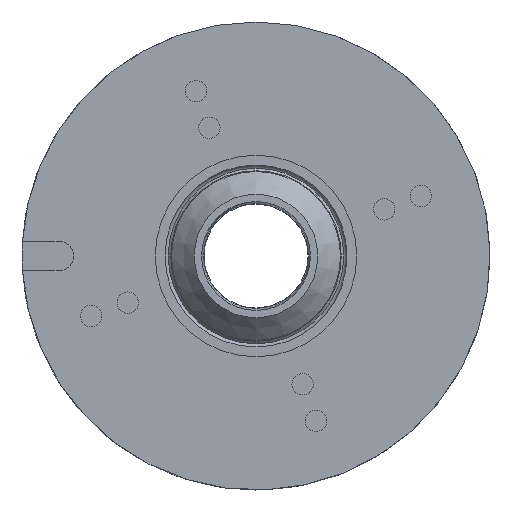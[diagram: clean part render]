
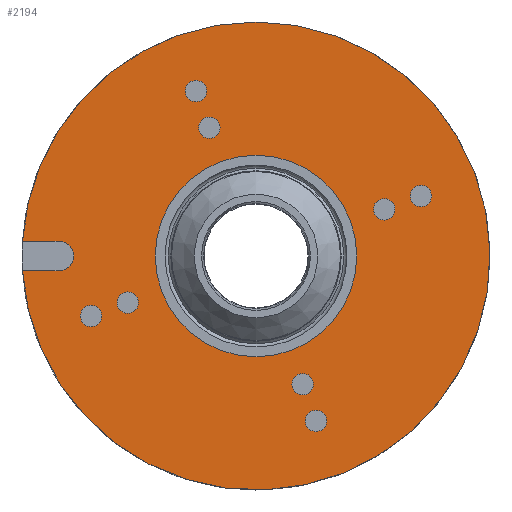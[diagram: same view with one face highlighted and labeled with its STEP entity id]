
A CAD part, left-side view. The second image highlights one B-rep face of the part: STEP entity #2194.
In plain terms, the highlighted planar face has unit normal (-1, 0, 0).
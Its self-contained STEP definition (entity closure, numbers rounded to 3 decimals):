
#23 = DIRECTION ( 'NONE',  ( 0., 1., 0. ) ) ;
#34 = EDGE_LOOP ( 'NONE', ( #2167 ) ) ;
#40 = EDGE_LOOP ( 'NONE', ( #2640, #2306, #3940, #1767 ) ) ;
#47 = VERTEX_POINT ( 'NONE', #192 ) ;
#60 = DIRECTION ( 'NONE',  ( -1., 0., 0. ) ) ;
#78 = AXIS2_PLACEMENT_3D ( 'NONE', #2320, #2020, #4214 ) ;
#137 = FACE_BOUND ( 'NONE', #4281, .T. ) ;
#192 = CARTESIAN_POINT ( 'NONE',  ( 0., 35.93, -2.25 ) ) ;
#245 = CIRCLE ( 'NONE', #274, 1.65 ) ;
#274 = AXIS2_PLACEMENT_3D ( 'NONE', #4664, #708, #4048 ) ;
#298 = EDGE_CURVE ( 'NONE', #4005, #4005, #434, .T. ) ;
#312 = VERTEX_POINT ( 'NONE', #2201 ) ;
#332 = DIRECTION ( 'NONE',  ( -1., 0., 0. ) ) ;
#340 = CARTESIAN_POINT ( 'NONE',  ( 0., 9.235, 25.372 ) ) ;
#407 = CIRCLE ( 'NONE', #3243, 15.5 ) ;
#421 = CARTESIAN_POINT ( 'NONE',  ( 0., -9.235, -25.372 ) ) ;
#429 = CIRCLE ( 'NONE', #3032, 36. ) ;
#434 = CIRCLE ( 'NONE', #2025, 1.65 ) ;
#453 = ORIENTED_EDGE ( 'NONE', *, *, #2706, .F. ) ;
#463 = CARTESIAN_POINT ( 'NONE',  ( 0., 30.3, 0. ) ) ;
#546 = CIRCLE ( 'NONE', #2957, 1.65 ) ;
#640 = VERTEX_POINT ( 'NONE', #4416 ) ;
#657 = FACE_BOUND ( 'NONE', #2409, .T. ) ;
#702 = VERTEX_POINT ( 'NONE', #4032 ) ;
#708 = DIRECTION ( 'NONE',  ( -1., 0., 0. ) ) ;
#726 = VECTOR ( 'NONE', #23, 1000. ) ;
#747 = DIRECTION ( 'NONE',  ( 0., 0., 1. ) ) ;
#759 = AXIS2_PLACEMENT_3D ( 'NONE', #340, #4764, #2567 ) ;
#801 = AXIS2_PLACEMENT_3D ( 'NONE', #463, #3419, #1886 ) ;
#802 = CIRCLE ( 'NONE', #3988, 1.65 ) ;
#808 = DIRECTION ( 'NONE',  ( 0., 0., 1. ) ) ;
#900 = CIRCLE ( 'NONE', #801, 2.25 ) ;
#905 = EDGE_CURVE ( 'NONE', #2892, #2892, #802, .T. ) ;
#907 = ORIENTED_EDGE ( 'NONE', *, *, #4507, .F. ) ;
#943 = EDGE_CURVE ( 'NONE', #702, #702, #3054, .T. ) ;
#1010 = DIRECTION ( 'NONE',  ( -1., 0., 0. ) ) ;
#1012 = FACE_BOUND ( 'NONE', #2936, .T. ) ;
#1028 = ORIENTED_EDGE ( 'NONE', *, *, #298, .F. ) ;
#1079 = DIRECTION ( 'NONE',  ( 0., 0., -1. ) ) ;
#1167 = VERTEX_POINT ( 'NONE', #4707 ) ;
#1190 = DIRECTION ( 'NONE',  ( 0., 0., 1. ) ) ;
#1323 = ORIENTED_EDGE ( 'NONE', *, *, #1903, .F. ) ;
#1341 = VERTEX_POINT ( 'NONE', #3281 ) ;
#1455 = CARTESIAN_POINT ( 'NONE',  ( 0., -25.372, 10.885 ) ) ;
#1479 = FACE_BOUND ( 'NONE', #2241, .T. ) ;
#1495 = EDGE_LOOP ( 'NONE', ( #1323 ) ) ;
#1558 = CARTESIAN_POINT ( 'NONE',  ( 0., -7.182, -19.734 ) ) ;
#1601 = EDGE_CURVE ( 'NONE', #2877, #47, #4638, .T. ) ;
#1603 = CIRCLE ( 'NONE', #78, 1.65 ) ;
#1618 = ORIENTED_EDGE ( 'NONE', *, *, #3925, .F. ) ;
#1635 = VERTEX_POINT ( 'NONE', #3650 ) ;
#1658 = DIRECTION ( 'NONE',  ( 0., 1., 0. ) ) ;
#1664 = EDGE_LOOP ( 'NONE', ( #453 ) ) ;
#1689 = EDGE_CURVE ( 'NONE', #1635, #1635, #4545, .T. ) ;
#1717 = EDGE_LOOP ( 'NONE', ( #3173 ) ) ;
#1741 = CARTESIAN_POINT ( 'NONE',  ( 0., 0., 0. ) ) ;
#1767 = ORIENTED_EDGE ( 'NONE', *, *, #1601, .T. ) ;
#1818 = DIRECTION ( 'NONE',  ( 0., 0., 1. ) ) ;
#1881 = FACE_BOUND ( 'NONE', #1495, .T. ) ;
#1886 = DIRECTION ( 'NONE',  ( 0., 0., 1. ) ) ;
#1901 = VERTEX_POINT ( 'NONE', #1912 ) ;
#1903 = EDGE_CURVE ( 'NONE', #640, #640, #1603, .T. ) ;
#1912 = CARTESIAN_POINT ( 'NONE',  ( 0., 35.93, 2.25 ) ) ;
#1941 = CARTESIAN_POINT ( 'NONE',  ( 0., 30.3, -2.25 ) ) ;
#2019 = ORIENTED_EDGE ( 'NONE', *, *, #943, .F. ) ;
#2020 = DIRECTION ( 'NONE',  ( -1., 0., 0. ) ) ;
#2025 = AXIS2_PLACEMENT_3D ( 'NONE', #2983, #2605, #1818 ) ;
#2111 = FACE_BOUND ( 'NONE', #4551, .T. ) ;
#2142 = CARTESIAN_POINT ( 'NONE',  ( 0., 7.182, 21.384 ) ) ;
#2167 = ORIENTED_EDGE ( 'NONE', *, *, #2357, .F. ) ;
#2194 = ADVANCED_FACE ( 'NONE', ( #1479, #2388, #1012, #657, #2914, #3503, #1881, #2111, #2337, #137 ), #3703, .F. ) ;
#2201 = CARTESIAN_POINT ( 'NONE',  ( 0., 30.3, 2.25 ) ) ;
#2203 = CARTESIAN_POINT ( 'NONE',  ( 0., 36., 0. ) ) ;
#2205 = CARTESIAN_POINT ( 'NONE',  ( 0., -9.235, -23.722 ) ) ;
#2241 = EDGE_LOOP ( 'NONE', ( #2019 ) ) ;
#2306 = ORIENTED_EDGE ( 'NONE', *, *, #4415, .F. ) ;
#2320 = CARTESIAN_POINT ( 'NONE',  ( 0., 19.734, -7.182 ) ) ;
#2337 = FACE_OUTER_BOUND ( 'NONE', #40, .T. ) ;
#2357 = EDGE_CURVE ( 'NONE', #3019, #3019, #245, .T. ) ;
#2388 = FACE_BOUND ( 'NONE', #34, .T. ) ;
#2409 = EDGE_LOOP ( 'NONE', ( #1618 ) ) ;
#2420 = VERTEX_POINT ( 'NONE', #2205 ) ;
#2476 = CARTESIAN_POINT ( 'NONE',  ( 0., 25.372, -9.235 ) ) ;
#2506 = EDGE_CURVE ( 'NONE', #47, #1901, #429, .T. ) ;
#2563 = CARTESIAN_POINT ( 'NONE',  ( 0., -19.734, 8.832 ) ) ;
#2567 = DIRECTION ( 'NONE',  ( 0., 0., 1. ) ) ;
#2594 = DIRECTION ( 'NONE',  ( 0., 0., 1. ) ) ;
#2605 = DIRECTION ( 'NONE',  ( -1., 0., 0. ) ) ;
#2640 = ORIENTED_EDGE ( 'NONE', *, *, #2506, .T. ) ;
#2666 = CARTESIAN_POINT ( 'NONE',  ( 0., 36., -2.25 ) ) ;
#2706 = EDGE_CURVE ( 'NONE', #1341, #1341, #546, .T. ) ;
#2850 = EDGE_CURVE ( 'NONE', #2877, #312, #900, .T. ) ;
#2877 = VERTEX_POINT ( 'NONE', #1941 ) ;
#2887 = AXIS2_PLACEMENT_3D ( 'NONE', #1558, #60, #2594 ) ;
#2892 = VERTEX_POINT ( 'NONE', #1455 ) ;
#2914 = FACE_BOUND ( 'NONE', #1717, .T. ) ;
#2936 = EDGE_LOOP ( 'NONE', ( #1028 ) ) ;
#2957 = AXIS2_PLACEMENT_3D ( 'NONE', #2476, #3435, #1190 ) ;
#2983 = CARTESIAN_POINT ( 'NONE',  ( 0., -19.734, 7.182 ) ) ;
#3019 = VERTEX_POINT ( 'NONE', #2142 ) ;
#3020 = DIRECTION ( 'NONE',  ( -1., 0., 0. ) ) ;
#3032 = AXIS2_PLACEMENT_3D ( 'NONE', #4335, #332, #3296 ) ;
#3054 = CIRCLE ( 'NONE', #759, 1.65 ) ;
#3146 = VECTOR ( 'NONE', #1658, 1000. ) ;
#3173 = ORIENTED_EDGE ( 'NONE', *, *, #1689, .F. ) ;
#3243 = AXIS2_PLACEMENT_3D ( 'NONE', #1741, #1010, #3979 ) ;
#3251 = LINE ( 'NONE', #3457, #3146 ) ;
#3281 = CARTESIAN_POINT ( 'NONE',  ( 0., 25.372, -7.585 ) ) ;
#3296 = DIRECTION ( 'NONE',  ( 0., 0., 1. ) ) ;
#3305 = CARTESIAN_POINT ( 'NONE',  ( 0., -25.372, 9.235 ) ) ;
#3382 = CIRCLE ( 'NONE', #4332, 1.65 ) ;
#3419 = DIRECTION ( 'NONE',  ( -1., 0., 0. ) ) ;
#3435 = DIRECTION ( 'NONE',  ( -1., 0., 0. ) ) ;
#3457 = CARTESIAN_POINT ( 'NONE',  ( 0., 42.3, 2.25 ) ) ;
#3503 = FACE_BOUND ( 'NONE', #1664, .T. ) ;
#3650 = CARTESIAN_POINT ( 'NONE',  ( 0., -7.182, -18.084 ) ) ;
#3703 = PLANE ( 'NONE',  #4539 ) ;
#3772 = ORIENTED_EDGE ( 'NONE', *, *, #905, .F. ) ;
#3925 = EDGE_CURVE ( 'NONE', #2420, #2420, #3382, .T. ) ;
#3940 = ORIENTED_EDGE ( 'NONE', *, *, #2850, .F. ) ;
#3979 = DIRECTION ( 'NONE',  ( 0., 0., 1. ) ) ;
#3988 = AXIS2_PLACEMENT_3D ( 'NONE', #3305, #4451, #747 ) ;
#4005 = VERTEX_POINT ( 'NONE', #2563 ) ;
#4032 = CARTESIAN_POINT ( 'NONE',  ( 0., 9.235, 27.022 ) ) ;
#4048 = DIRECTION ( 'NONE',  ( 0., 0., 1. ) ) ;
#4065 = DIRECTION ( 'NONE',  ( 1., 0., 0. ) ) ;
#4214 = DIRECTION ( 'NONE',  ( 0., 0., 1. ) ) ;
#4281 = EDGE_LOOP ( 'NONE', ( #3772 ) ) ;
#4332 = AXIS2_PLACEMENT_3D ( 'NONE', #421, #3020, #808 ) ;
#4335 = CARTESIAN_POINT ( 'NONE',  ( 0., 0., 0. ) ) ;
#4415 = EDGE_CURVE ( 'NONE', #312, #1901, #3251, .T. ) ;
#4416 = CARTESIAN_POINT ( 'NONE',  ( 0., 19.734, -5.532 ) ) ;
#4451 = DIRECTION ( 'NONE',  ( -1., 0., 0. ) ) ;
#4507 = EDGE_CURVE ( 'NONE', #1167, #1167, #407, .T. ) ;
#4539 = AXIS2_PLACEMENT_3D ( 'NONE', #2203, #4065, #1079 ) ;
#4545 = CIRCLE ( 'NONE', #2887, 1.65 ) ;
#4551 = EDGE_LOOP ( 'NONE', ( #907 ) ) ;
#4638 = LINE ( 'NONE', #2666, #726 ) ;
#4664 = CARTESIAN_POINT ( 'NONE',  ( 0., 7.182, 19.734 ) ) ;
#4707 = CARTESIAN_POINT ( 'NONE',  ( 0., 0., 15.5 ) ) ;
#4764 = DIRECTION ( 'NONE',  ( -1., 0., 0. ) ) ;
